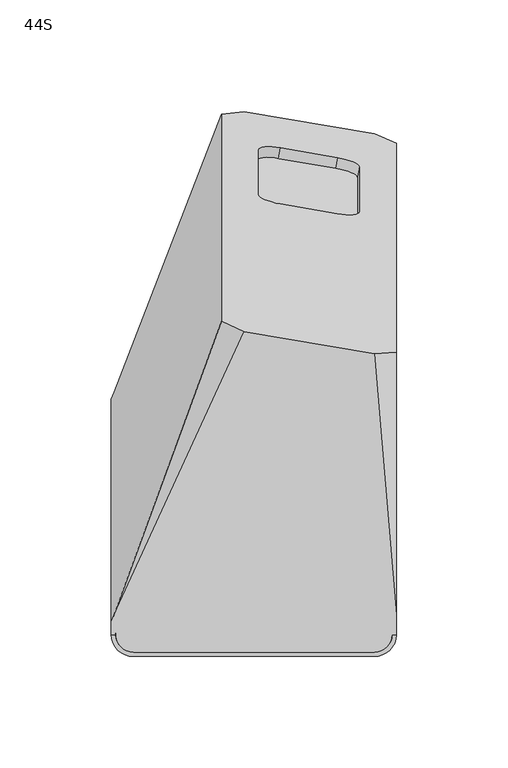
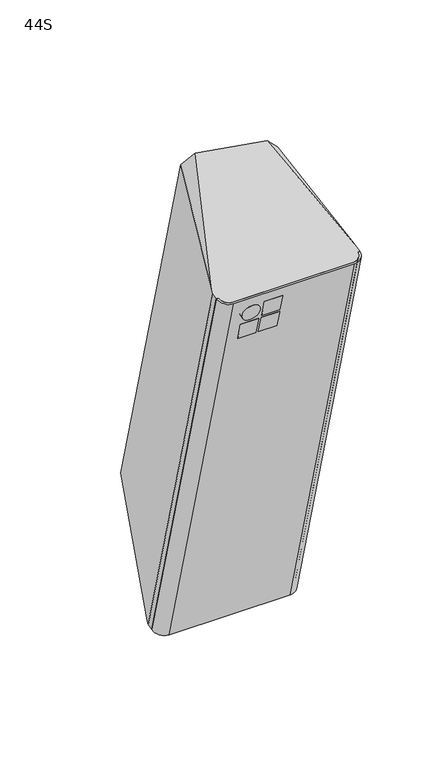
"""IFC4 building model written with IfcOpenShell, lengths in millimetres: proxy geometry, d&b xS-Series 44S Point Source : 44S."""

from ifc_helpers import new_model, si_unit, point, frame, frame_2d, origin, place, context, project, spatial, polyline, circle_curve, ellipse_curve, trimmed, segment, composite_curve, outline, extrude, source, transform, mapped, element, save
from ifc_brep_helpers import plane_surface, cylinder_surface, revolved_surface, advanced_brep


def proxy_44s_21f7933f(model_context):
    return source(origin(), model_context, "Body", "SolidModel", [
        advanced_brep(
        [(64.0, -13.7233413, -203.7882112), (62.0435242, -13.7233413, -203.7882112), (54.078429, -21.3815648, -205.9820967), (-54.0, -21.3815648, -205.9820967), (-62.0, -13.6897813, -203.7785971), (-64.0, -13.6897813, -203.7785971), (-64.0, -7.9880637, -202.1452006), (-62.7855103, -4.7790138, -201.2258897), (-4.3760941, 121.0894653, -165.1677837), (54.074657, 111.1800978, -168.0065645), (64.0, -4.7790138, -201.2258897), (62.0435242, -113.7788678, 169.6240972), (64.0, -113.7788678, 169.6240972), (64.0, -104.7516922, 171.8772255), (54.074657, 12.2815069, 201.0880018), (-4.3760941, 22.2826612, 203.5842292), (-62.7855103, -104.7516922, 171.8772255), (-64.0, -107.9904664, 171.0688471), (-64.0, -113.7449969, 169.6325512), (-62.0, -113.7449969, 169.6325512), (-54.0, -121.5080266, 167.6949461), (54.078429, -121.5080266, 167.6949461), (64.0, 106.9658275, -159.0405828), (64.0, 13.1148325, 191.2160987), (-14.5000481, 26.8413246, 193.4682639), (-14.5000481, 119.979401, -154.1277691), (11.9474751, 104.7522905, -115.3174593), (37.5524767, 100.3912778, -116.4859892), (47.4005542, 96.1257747, -107.2761655), (47.4005542, 76.1967083, -32.8998768), (37.5524767, 75.2858304, -22.791184), (11.9474751, 79.6468432, -21.6226542), (2.0993976, 83.9123462, -30.8324779), (2.0993976, 103.8414127, -105.2087665), (11.0792343, 99.9960343, -116.5918943), (1.2311567, 99.0851565, -106.4832015), (1.2311567, 79.15609, -32.1069129), (11.0792343, 74.8905869, -22.8970892), (36.6842358, 70.5295742, -24.065619), (46.5323134, 71.440452, -34.1743119), (46.5323134, 91.3695185, -108.5506005), (36.6842358, 95.6350216, -117.7604242)],
        [
            (0, 1),
            (1, 2, ellipse_curve(frame((54.078429, -13.7233413, -203.7882112), z_axis=(0.0, 0.2753966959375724, -0.961330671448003), x_axis=(0.0, -0.9613306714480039, -0.27539669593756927)), 7.9662739, 7.9650952)),
            (2, 3),
            (3, 4, ellipse_curve(frame((-54.0, -13.6897813, -203.7785971), z_axis=(0.0, 0.2753966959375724, -0.961330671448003), x_axis=(0.0, -0.9613306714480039, -0.27539669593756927)), 8.0011839, 8.0)),
            (4, 5),
            (5, 6),
            (6, 7),
            (7, 8),
            (8, 9),
            (9, 10),
            (10, 0),
            (11, 12),
            (12, 13),
            (13, 14),
            (14, 15),
            (15, 16),
            (16, 17),
            (17, 18),
            (18, 19),
            (19, 20, ellipse_curve(frame((-54.0, -113.7449969, 169.6325512), z_axis=(0.0, -0.24216480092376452, 0.9702351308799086), x_axis=(0.0, 0.9702351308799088, 0.24216480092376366)), 8.0011839, 8.0)),
            (20, 21),
            (21, 11, ellipse_curve(frame((54.078429, -113.7788678, 169.6240972), z_axis=(0.0, -0.24216480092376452, 0.9702351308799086), x_axis=(0.0, 0.9702351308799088, 0.24216480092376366)), 7.9662739, 7.9650952)),
            (0, 12),
            (11, 1),
            (21, 2),
            (20, 3),
            (19, 4),
            (18, 5),
            (17, 6),
            (10, 22),
            (22, 23),
            (23, 13),
            (16, 24),
            (24, 25),
            (25, 7),
            (9, 22),
            (23, 14),
            (15, 24),
            (25, 8),
            (26, 27),
            (27, 28, circle_curve(frame((37.5524767, 97.8030873, -106.8267309), z_axis=(-0.17364817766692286, -0.951251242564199, -0.2548870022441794), x_axis=(-0.9848077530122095, 0.16773125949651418, 0.04494345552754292)), 10.0)),
            (28, 29),
            (29, 30, circle_curve(frame((37.5524767, 77.8740209, -32.4504423), z_axis=(-0.17364817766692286, -0.951251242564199, -0.2548870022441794), x_axis=(-0.9848077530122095, 0.16773125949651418, 0.04494345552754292)), 10.0)),
            (30, 31),
            (31, 32, circle_curve(frame((11.9474751, 82.2350336, -31.2819124), z_axis=(-0.17364817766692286, -0.951251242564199, -0.2548870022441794), x_axis=(-0.9848077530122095, 0.16773125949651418, 0.04494345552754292)), 10.0)),
            (32, 33),
            (33, 26, circle_curve(frame((11.9474751, 102.1641001, -105.6582011), z_axis=(-0.17364817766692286, -0.951251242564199, -0.2548870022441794), x_axis=(-0.9848077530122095, 0.16773125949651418, 0.04494345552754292)), 10.0)),
            (34, 35, circle_curve(frame((11.0792343, 97.4078439, -106.9326361), z_axis=(0.17364817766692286, 0.951251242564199, 0.2548870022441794), x_axis=(-0.9848077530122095, 0.16773125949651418, 0.04494345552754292)), 10.0)),
            (35, 36),
            (36, 37, circle_curve(frame((11.0792343, 77.4787774, -32.5563475), z_axis=(0.17364817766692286, 0.951251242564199, 0.2548870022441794), x_axis=(-0.9848077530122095, 0.16773125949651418, 0.04494345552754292)), 10.0)),
            (37, 38),
            (38, 39, circle_curve(frame((36.6842358, 73.1177646, -33.7248773), z_axis=(0.17364817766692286, 0.951251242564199, 0.2548870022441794), x_axis=(-0.9848077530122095, 0.16773125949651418, 0.04494345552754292)), 10.0)),
            (39, 40),
            (40, 41, circle_curve(frame((36.6842358, 93.0468311, -108.1011659), z_axis=(0.17364817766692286, 0.951251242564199, 0.2548870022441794), x_axis=(-0.9848077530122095, 0.16773125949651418, 0.04494345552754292)), 10.0)),
            (41, 34),
            (41, 27),
            (26, 34),
            (40, 28),
            (39, 29),
            (38, 30),
            (37, 31),
            (36, 32),
            (35, 33),
        ],
        [
            plane_surface(frame((-100.0, -43.8206736, -212.4103285), z_axis=(0.0, 0.2753966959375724, -0.961330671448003), x_axis=(1.0, 0.0, 0.0))),
            plane_surface(frame((-100.0, 31.7672161, 205.9515165), z_axis=(0.0, -0.24216480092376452, 0.9702351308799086), x_axis=(1.0, 0.0, 0.0))),
            plane_surface(frame((64.0, -10.1379674, -217.1690088), z_axis=(0.0, -0.9659258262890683, -0.2588190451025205), x_axis=(0.0, -0.2588190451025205, 0.9659258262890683))),
            cylinder_surface(frame((54.078429, -117.3642417, 183.0048948), z_axis=(0.0, 0.2588190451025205, -0.9659258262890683), x_axis=(1.0, 0.0, 0.0)), 7.9650952),
            plane_surface(frame((54.078429, -17.8316585, -219.2305271), z_axis=(0.0, -0.9659258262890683, -0.2588190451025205), x_axis=(0.0, -0.2588190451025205, 0.9659258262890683))),
            cylinder_surface(frame((-54.0, -117.3305262, 183.0139289), z_axis=(0.0, 0.2588190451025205, -0.9659258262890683), x_axis=(1.0, 0.0, 0.0)), 8.0),
            plane_surface(frame((-62.0, -10.1042519, -217.1599748), z_axis=(0.0, -0.9659258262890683, -0.2588190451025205), x_axis=(0.0, -0.2588190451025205, 0.9659258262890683))),
            plane_surface(frame((-64.0, -10.1042519, -217.1599748), z_axis=(-1.0, 0.0, 0.0), x_axis=(0.0, -0.2588190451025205, 0.9659258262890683))),
            plane_surface(frame((64.0, -4.3761279, -215.6251286), z_axis=(1.0, 0.0, 0.0), x_axis=(0.0, -0.2588190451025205, 0.9659258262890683))),
            plane_surface(frame((-14.5000481, 73.4103628, 19.6702474), z_axis=(-0.9397208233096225, 0.33029123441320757, 0.08850126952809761), x_axis=(0.0, 0.2588190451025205, -0.9659258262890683))),
            plane_surface(frame((57.232233, 121.7310279, -160.66493), z_axis=(0.7053631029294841, 0.2503538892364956, -0.6631634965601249), x_axis=(0.7071067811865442, -0.1830127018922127, 0.6830127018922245))),
            plane_surface(frame((57.232233, 25.0896976, 200.0054248), z_axis=(0.7053631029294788, -0.11476892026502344, 0.6994933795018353), x_axis=(-0.7071067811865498, -0.18301270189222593, 0.6830127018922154))),
            plane_surface(frame((-7.7322812, 25.0896976, 200.0054248), z_axis=(-0.6719558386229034, 0.1268444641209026, 0.7296477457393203), x_axis=(-0.7071067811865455, 0.18301270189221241, -0.6830127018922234))),
            plane_surface(frame((-7.7322812, 121.7310279, -160.66493), z_axis=(-0.6719558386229, 0.47467440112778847, -0.5684712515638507), x_axis=(0.7071067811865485, 0.18301270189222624, -0.6830127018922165))),
            plane_surface(frame((81.2585403, 121.8056377, -226.1813229), z_axis=(0.17364817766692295, 0.951251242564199, 0.25488700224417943), x_axis=(0.0, -0.2588190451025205, 0.9659258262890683))),
            plane_surface(frame((63.1317591, 91.1305115, -118.967404), z_axis=(0.1736481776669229, 0.951251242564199, 0.25488700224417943), x_axis=(0.9848077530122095, -0.16773125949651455, -0.04494345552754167))),
            plane_surface(frame((11.0792343, 99.9960343, -116.5918943), z_axis=(0.0, -0.25881904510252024, 0.9659258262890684), x_axis=(0.17364817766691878, 0.9512512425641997, 0.25488700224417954))),
            revolved_surface(polyline([(26.836158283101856, 94.72414369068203, -107.65173135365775), (27.70439917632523, 99.48039993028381, -106.37729633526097)]), (37.5524767, 97.8030873, -106.8267309), (-0.17364817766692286, -0.951251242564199, -0.2548870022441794)),
            plane_surface(frame((46.5323134, 91.3695185, -108.5506005), z_axis=(-0.9848077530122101, 0.1677312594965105, 0.04494345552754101), x_axis=(0.17364817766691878, 0.9512512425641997, 0.25488700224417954))),
            revolved_surface(polyline([(26.83615826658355, 74.79507720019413, -33.275442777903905), (27.704399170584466, 79.55133349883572, -32.00100774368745)]), (37.5524767, 77.8740209, -32.4504423), (-0.17364817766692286, -0.951251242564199, -0.2548870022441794)),
            plane_surface(frame((36.6842358, 70.5295742, -24.065619), z_axis=(0.0, 0.25881904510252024, -0.9659258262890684), x_axis=(0.17364817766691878, 0.9512512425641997, 0.25488700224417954))),
            revolved_surface(polyline([(1.2311566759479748, 79.15608995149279, -32.106912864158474), (2.0993975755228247, 83.91234622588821, -30.83247783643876)]), (11.9474751, 82.2350336, -31.2819124), (-0.17364817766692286, -0.951251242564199, -0.2548870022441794)),
            plane_surface(frame((1.2311567, 79.15609, -32.1069129), z_axis=(0.9848077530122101, -0.16773125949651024, -0.04494345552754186), x_axis=(0.17364817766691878, 0.9512512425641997, 0.25488700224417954))),
            revolved_surface(polyline([(1.2311566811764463, 99.08515648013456, -106.48320155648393), (2.0993975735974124, 103.84141271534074, -105.20876653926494)]), (11.9474751, 102.1641001, -105.6582011), (-0.17364817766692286, -0.951251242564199, -0.2548870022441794)),
        ],
        [
            (0, [[1, 2, 3, 4, 5, 6, 7, 8, 9, 10, 11]]),
            (1, [[12, 13, 14, 15, 16, 17, 18, 19, 20, 21, 22]]),
            (2, [[23, -12, 24, -1]]),
            (3, [[-24, -22, 25, -2]]),
            (4, [[-25, -21, 26, -3]]),
            (5, [[-26, -20, 27, -4]]),
            (6, [[-27, -19, 28, -5]]),
            (7, [[-28, -18, 29, -6]]),
            (8, [[-23, -11, 30, 31, 32, -13]]),
            (9, [[-29, -17, 33, 34, 35, -7]]),
            (10, [[-30, -10, 36]]),
            (11, [[-32, 37, -14]]),
            (12, [[-33, -16, 38]]),
            (13, [[-35, 39, -8]]),
            (14, [[-31, -36, -9, -39, -34, -38, -15, -37], [40, 41, 42, 43, 44, 45, 46, 47]]),
            (15, [[48, 49, 50, 51, 52, 53, 54, 55]]),
            (16, [[-55, 56, -40, 57]]),
            (17, [[-54, 58, -41, -56]]),
            (18, [[-53, 59, -42, -58]]),
            (19, [[-52, 60, -43, -59]]),
            (20, [[-51, 61, -44, -60]]),
            (21, [[-50, 62, -45, -61]]),
            (22, [[-49, 63, -46, -62]]),
            (23, [[-48, -57, -47, -63]]),
        ],
    ),
        extrude(outline(polyline([(0.0, -16.3333333), (0.0, 0.0), (5.0, 0.0), (5.0, -16.3333333), (0.0, -16.3333333)])), frame((-44.0, -111.8357979, 123.7354287), z_axis=(0.0, -0.2588190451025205, 0.9659258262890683), x_axis=(0.0, 0.9659258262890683, 0.2588190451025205)), (0.0, 0.0, 1.0), 16.3333333),
        extrude(outline(polyline([(0.0, -16.3333333), (0.0, 0.0), (5.0, 0.0), (5.0, -16.3333333), (0.0, -16.3333333)])), frame((-25.3333333, -111.8357979, 123.7354287), z_axis=(0.0, -0.2588190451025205, 0.9659258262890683), x_axis=(0.0, 0.9659258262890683, 0.2588190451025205)), (0.0, 0.0, 1.0), 16.3333333),
        extrude(outline(polyline([(0.0, -16.3333333), (0.0, 0.0), (5.0, 0.0), (5.0, -16.3333333), (0.0, -16.3333333)])), frame((-25.3333333, -116.6670867, 141.7660441), z_axis=(0.0, -0.2588190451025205, 0.9659258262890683), x_axis=(0.0, 0.9659258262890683, 0.2588190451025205)), (0.0, 0.0, 1.0), 16.3333333),
        extrude(outline(composite_curve([segment(trimmed(circle_curve(frame_2d((36.1666666, -8.1666666)), 8.1666667), [point((44.3333333, -8.1666666))], [point((27.9999999, -8.1666666))], False, "CARTESIAN"), True, "CONTINUOUS"), segment(trimmed(circle_curve(frame_2d((36.1666666, -8.1666666)), 8.1666667), [point((27.9999999, -8.1666666))], [point((44.3333333, -8.1666666))], False, "CARTESIAN"), True, "CONTINUOUS")], self_intersect=False)), frame((-27.6666667, -109.4201535, 114.720121), z_axis=(0.0, 0.9659258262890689, 0.258819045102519), x_axis=(0.0, -0.258819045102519, 0.9659258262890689)), (0.0, 0.0, 1.0), 5.0),
        advanced_brep(
        [(-54.0, -21.3815648, -205.9820967), (54.078429, -21.3815648, -205.9820967), (62.0435242, -13.7233413, -203.7882112), (64.0, -13.7233413, -203.7882112), (54.0, -23.3380707, -206.5425857), (-54.0, -23.3380707, -206.5425857), (-64.0349048, -13.6897813, -203.7785971), (-62.0, -13.6897813, -203.7785971), (54.078429, -121.5080266, 167.6949461), (-54.0, -121.5080266, 167.6949461), (-62.0, -113.7449969, 169.6325512), (-64.0349048, -113.7449969, 169.6325512), (-54.0, -123.4826549, 167.2020909), (54.0, -123.4826549, 167.2020909), (64.0, -113.7788678, 169.6240972), (62.0435242, -113.7788678, 169.6240972)],
        [
            (0, 1),
            (1, 2, ellipse_curve(frame((54.078429, -13.7233413, -203.7882112), z_axis=(0.0, -0.2753966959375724, 0.961330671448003), x_axis=(0.0, 0.9613306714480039, 0.27539669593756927)), 7.9662739, 7.9650952)),
            (2, 3),
            (3, 4, ellipse_curve(frame((54.0, -13.7233413, -203.7882112), z_axis=(0.0, 0.2753966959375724, -0.961330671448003), x_axis=(0.0, -0.9613306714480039, -0.27539669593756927)), 10.0014799, 10.0)),
            (4, 5),
            (5, 6, ellipse_curve(frame((-54.0, -13.6897813, -203.7785971), z_axis=(0.0, 0.2753966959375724, -0.961330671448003), x_axis=(0.0, -0.9613306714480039, -0.27539669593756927)), 10.0363899, 10.0349048)),
            (6, 7),
            (7, 0, ellipse_curve(frame((-54.0, -13.6897813, -203.7785971), z_axis=(0.0, -0.2753966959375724, 0.961330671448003), x_axis=(0.0, 0.9613306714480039, 0.27539669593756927)), 8.0011839, 8.0)),
            (8, 9),
            (9, 10, ellipse_curve(frame((-54.0, -113.7449969, 169.6325512), z_axis=(0.0, 0.24216480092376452, -0.9702351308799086), x_axis=(0.0, -0.9702351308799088, -0.24216480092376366)), 8.0011839, 8.0)),
            (10, 11),
            (11, 12, ellipse_curve(frame((-54.0, -113.7449969, 169.6325512), z_axis=(0.0, -0.24216480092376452, 0.9702351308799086), x_axis=(0.0, 0.9702351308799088, 0.24216480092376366)), 10.0363899, 10.0349048)),
            (12, 13),
            (13, 14, ellipse_curve(frame((54.0, -113.7788678, 169.6240972), z_axis=(0.0, -0.24216480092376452, 0.9702351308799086), x_axis=(0.0, 0.9702351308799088, 0.24216480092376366)), 10.0014799, 10.0)),
            (14, 15),
            (15, 8, ellipse_curve(frame((54.078429, -113.7788678, 169.6240972), z_axis=(0.0, 0.24216480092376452, -0.9702351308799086), x_axis=(0.0, -0.9702351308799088, -0.24216480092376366)), 7.9662739, 7.9650952)),
            (0, 9),
            (8, 1),
            (15, 2),
            (14, 3),
            (13, 4),
            (12, 5),
            (11, 6),
            (10, 7),
        ],
        [
            plane_surface(frame((-100.0, -43.8206736, -212.4103285), z_axis=(0.0, 0.2753966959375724, -0.961330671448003), x_axis=(1.0, 0.0, 0.0))),
            plane_surface(frame((-100.0, 31.7672161, 205.9515165), z_axis=(0.0, -0.24216480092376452, 0.9702351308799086), x_axis=(1.0, 0.0, 0.0))),
            plane_surface(frame((-54.0, -19.0339391, -214.7435551), z_axis=(0.0, 0.9659258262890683, 0.2588190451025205), x_axis=(0.0, -0.2588190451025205, 0.9659258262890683))),
            revolved_surface(polyline([(46.1133338, -113.81433550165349, 169.75646441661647), (46.1133338, -13.687873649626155, -203.92057839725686)]), (54.078429, -116.1619612, 178.5179228), (0.0, -0.2588190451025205, 0.9659258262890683)),
            plane_surface(frame((62.0435242, -11.3402479, -212.6820368), z_axis=(0.0, 0.9659258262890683, 0.2588190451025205), x_axis=(0.0, -0.2588190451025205, 0.9659258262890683))),
            cylinder_surface(frame((54.0, -116.1619612, 178.5179228), z_axis=(0.0, 0.2588190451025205, -0.9659258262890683), x_axis=(-1.0, 0.0, 0.0)), 10.0),
            plane_surface(frame((54.0, -20.9995062, -215.2702273), z_axis=(0.0, -0.9659258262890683, -0.2588190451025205), x_axis=(0.0, -0.2588190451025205, 0.9659258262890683))),
            cylinder_surface(frame((-54.0, -116.1282457, 178.5269569), z_axis=(0.0, 0.2588190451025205, -0.9659258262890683), x_axis=(-1.0, 0.0, 0.0)), 10.0349048),
            plane_surface(frame((-64.0349048, -11.3065324, -212.6730028), z_axis=(0.0, 0.9659258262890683, 0.2588190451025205), x_axis=(0.0, -0.2588190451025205, 0.9659258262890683))),
            revolved_surface(polyline([(-62.0, -113.78061998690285, 169.7654984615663), (-62.0, -13.654158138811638, -203.9115443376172)]), (-54.0, -116.1282457, 178.5269569), (0.0, -0.2588190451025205, 0.9659258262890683)),
        ],
        [
            (0, [[1, 2, 3, 4, 5, 6, 7, 8]]),
            (1, [[9, 10, 11, 12, 13, 14, 15, 16]]),
            (2, [[17, -9, 18, -1]]),
            (3, [[-18, -16, 19, -2]]),
            (4, [[-19, -15, 20, -3]]),
            (5, [[-20, -14, 21, -4]]),
            (6, [[-21, -13, 22, -5]]),
            (7, [[-22, -12, 23, -6]]),
            (8, [[-23, -11, 24, -7]]),
            (9, [[-17, -8, -24, -10]]),
        ],
    ),
    ])


if __name__ == "__main__":
    model = new_model("IFC4")
    model_context = context("Model", 3, world=origin())
    ifc_project = project(units=[si_unit("LENGTHUNIT", "METRE", prefix="MILLI")], contexts=[model_context])
    site = spatial("IfcSite", under=ifc_project)
    building = spatial("IfcBuilding", under=site)
    placement = place(None, origin())
    proxy_44s_shape = proxy_44s_21f7933f(model_context)
    element("IfcBuildingElementProxy", 1, Name="d&b xS-Series 44S Point Source : 44S", ObjectType="d&b xS-Series 44S Point Source : 44S", at=placement, inside=building, context=model_context, shape_type="MappedRepresentation", body=[
        mapped(proxy_44s_shape, transform((0.0, 0.0, 0.0), x_axis=(1.0, 0.0, 0.0), y_axis=(0.0, 1.0, 0.0), z_axis=(0.0, 0.0, 1.0))),
    ])
    save(model, "model.ifc")
